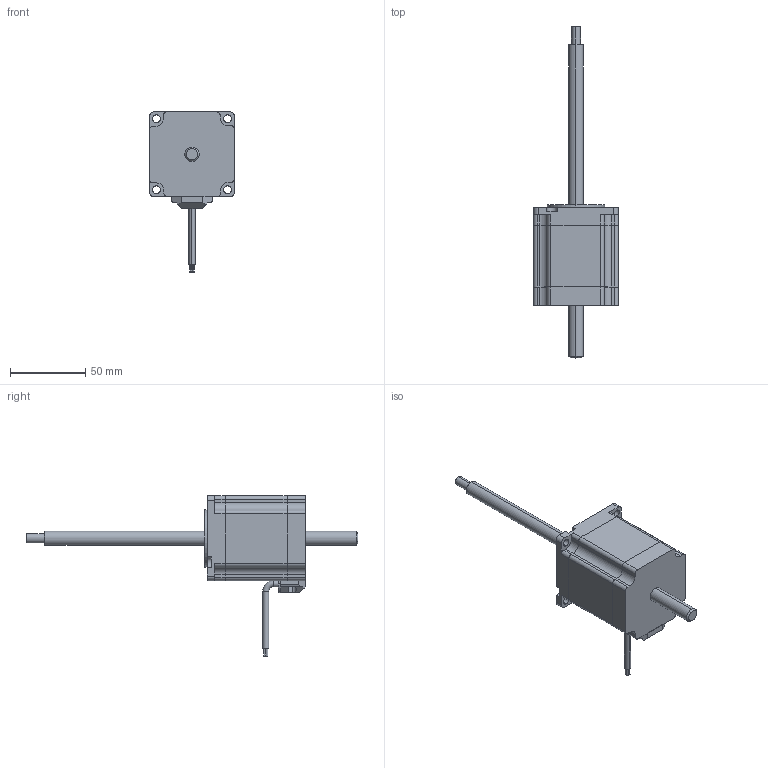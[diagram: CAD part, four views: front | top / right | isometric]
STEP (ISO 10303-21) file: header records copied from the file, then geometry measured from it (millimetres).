
FILE_DESCRIPTION (( 'STEP AP203' ), '1' );
FILE_NAME ('57N265-6.35-4-4-220-001.STEP', '2020-09-15T06:04:41', ( '' ), ( '' ), 'SwSTEP 2.0', 'SolidWorks 2017', '' );
FILE_SCHEMA (( 'CONFIG_CONTROL_DESIGN' ));
Length unit declared in the file: millimetre
Products named in the file (1): 57N265-6.35-4-4-220-001
Bounding box: 56.2 x 220 x 106.2 mm (x, y, z)
Volume: 199590.8 mm3; surface area: 30545.2 mm2
Topology: 2 solids, 2 shells, 202 faces, 545 edges, 359 vertices
Faces by surface type: cylinder 101, plane 93, cone 6, torus 2
Entity records: 6529 total; most frequent: CARTESIAN_POINT 1197, DIRECTION 1134, ORIENTED_EDGE 1090, EDGE_CURVE 545, AXIS2_PLACEMENT_3D 404, VERTEX_POINT 359, VECTOR 326, LINE 326
